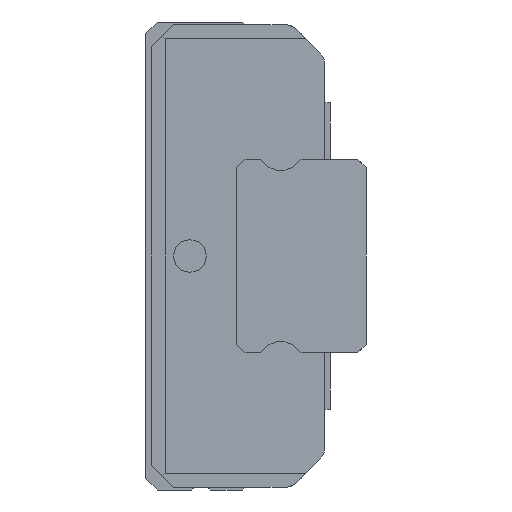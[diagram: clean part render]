
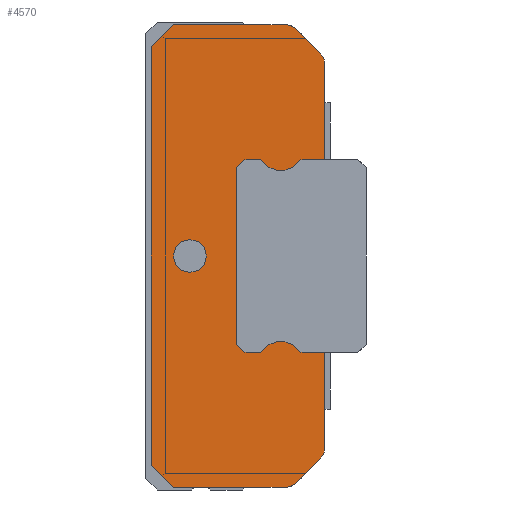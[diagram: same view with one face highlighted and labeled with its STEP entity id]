
A CAD part, left-side view. The second image highlights one B-rep face of the part: STEP entity #4570.
In plain terms, the highlighted planar face has unit normal (-1, 0, 0).
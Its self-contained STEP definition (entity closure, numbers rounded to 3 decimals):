
#263=CIRCLE('',#5099,0.5);
#269=CIRCLE('',#5126,0.5);
#279=CIRCLE('',#5145,0.6);
#280=CIRCLE('',#5146,0.5);
#281=CIRCLE('',#5147,0.5);
#282=CIRCLE('',#5148,0.15);
#283=CIRCLE('',#5149,0.8);
#284=CIRCLE('',#5150,0.15);
#285=CIRCLE('',#5151,0.15);
#286=CIRCLE('',#5152,0.8);
#287=CIRCLE('',#5153,0.15);
#1300=ORIENTED_EDGE('',*,*,#2028,.T.);
#1301=ORIENTED_EDGE('',*,*,#2029,.T.);
#1302=ORIENTED_EDGE('',*,*,#1999,.F.);
#1303=ORIENTED_EDGE('',*,*,#2030,.F.);
#1304=ORIENTED_EDGE('',*,*,#1908,.F.);
#1305=ORIENTED_EDGE('',*,*,#1904,.F.);
#1306=ORIENTED_EDGE('',*,*,#1898,.F.);
#1307=ORIENTED_EDGE('',*,*,#1925,.F.);
#1308=ORIENTED_EDGE('',*,*,#1991,.F.);
#1309=ORIENTED_EDGE('',*,*,#1980,.F.);
#1310=ORIENTED_EDGE('',*,*,#1989,.F.);
#1311=ORIENTED_EDGE('',*,*,#1986,.F.);
#1312=ORIENTED_EDGE('',*,*,#1949,.F.);
#1313=ORIENTED_EDGE('',*,*,#2031,.F.);
#1314=ORIENTED_EDGE('',*,*,#2005,.F.);
#1315=ORIENTED_EDGE('',*,*,#2032,.T.);
#1316=ORIENTED_EDGE('',*,*,#2033,.T.);
#1317=ORIENTED_EDGE('',*,*,#2034,.F.);
#1318=ORIENTED_EDGE('',*,*,#2035,.T.);
#1319=ORIENTED_EDGE('',*,*,#2036,.T.);
#1320=ORIENTED_EDGE('',*,*,#2037,.T.);
#1321=ORIENTED_EDGE('',*,*,#2038,.T.);
#1322=ORIENTED_EDGE('',*,*,#2039,.T.);
#1323=ORIENTED_EDGE('',*,*,#2040,.T.);
#1324=ORIENTED_EDGE('',*,*,#2041,.T.);
#1325=ORIENTED_EDGE('',*,*,#2042,.F.);
#1326=ORIENTED_EDGE('',*,*,#2043,.T.);
#1898=EDGE_CURVE('',#2408,#2409,#2645,.T.);
#1904=EDGE_CURVE('',#2409,#2413,#263,.T.);
#1908=EDGE_CURVE('',#2413,#2415,#2651,.T.);
#1925=EDGE_CURVE('',#2428,#2408,#2668,.T.);
#1949=EDGE_CURVE('',#2447,#2448,#2690,.T.);
#1980=EDGE_CURVE('',#2469,#2470,#2717,.T.);
#1986=EDGE_CURVE('',#2448,#2473,#269,.T.);
#1989=EDGE_CURVE('',#2473,#2469,#2724,.T.);
#1991=EDGE_CURVE('',#2470,#2428,#2726,.T.);
#1999=EDGE_CURVE('',#2477,#2478,#2734,.T.);
#2005=EDGE_CURVE('',#2482,#2484,#2740,.T.);
#2028=EDGE_CURVE('',#2503,#2503,#279,.T.);
#2029=EDGE_CURVE('',#2504,#2478,#2754,.T.);
#2030=EDGE_CURVE('',#2415,#2477,#280,.T.);
#2031=EDGE_CURVE('',#2484,#2447,#281,.T.);
#2032=EDGE_CURVE('',#2482,#2505,#2755,.T.);
#2033=EDGE_CURVE('',#2505,#2506,#282,.T.);
#2034=EDGE_CURVE('',#2507,#2506,#283,.T.);
#2035=EDGE_CURVE('',#2507,#2508,#284,.T.);
#2036=EDGE_CURVE('',#2508,#2509,#2756,.T.);
#2037=EDGE_CURVE('',#2509,#2510,#2757,.T.);
#2038=EDGE_CURVE('',#2510,#2511,#2758,.T.);
#2039=EDGE_CURVE('',#2511,#2512,#2759,.T.);
#2040=EDGE_CURVE('',#2512,#2513,#2760,.T.);
#2041=EDGE_CURVE('',#2513,#2514,#285,.T.);
#2042=EDGE_CURVE('',#2515,#2514,#286,.T.);
#2043=EDGE_CURVE('',#2515,#2504,#287,.T.);
#2408=VERTEX_POINT('',#7481);
#2409=VERTEX_POINT('',#7483);
#2413=VERTEX_POINT('',#7495);
#2415=VERTEX_POINT('',#7502);
#2428=VERTEX_POINT('',#7534);
#2447=VERTEX_POINT('',#7583);
#2448=VERTEX_POINT('',#7585);
#2469=VERTEX_POINT('',#7643);
#2470=VERTEX_POINT('',#7645);
#2473=VERTEX_POINT('',#7656);
#2477=VERTEX_POINT('',#7678);
#2478=VERTEX_POINT('',#7680);
#2482=VERTEX_POINT('',#7690);
#2484=VERTEX_POINT('',#7693);
#2503=VERTEX_POINT('',#7737);
#2504=VERTEX_POINT('',#7739);
#2505=VERTEX_POINT('',#7743);
#2506=VERTEX_POINT('',#7745);
#2507=VERTEX_POINT('',#7747);
#2508=VERTEX_POINT('',#7749);
#2509=VERTEX_POINT('',#7751);
#2510=VERTEX_POINT('',#7753);
#2511=VERTEX_POINT('',#7755);
#2512=VERTEX_POINT('',#7757);
#2513=VERTEX_POINT('',#7759);
#2514=VERTEX_POINT('',#7761);
#2515=VERTEX_POINT('',#7763);
#2645=LINE('',#7482,#2910);
#2651=LINE('',#7501,#2916);
#2668=LINE('',#7535,#2933);
#2690=LINE('',#7584,#2955);
#2717=LINE('',#7644,#2982);
#2724=LINE('',#7660,#2989);
#2726=LINE('',#7663,#2991);
#2734=LINE('',#7679,#2999);
#2740=LINE('',#7692,#3005);
#2754=LINE('',#7738,#3019);
#2755=LINE('',#7742,#3020);
#2756=LINE('',#7750,#3021);
#2757=LINE('',#7752,#3022);
#2758=LINE('',#7754,#3023);
#2759=LINE('',#7756,#3024);
#2760=LINE('',#7758,#3025);
#2910=VECTOR('',#6216,1000.);
#2916=VECTOR('',#6236,1000.);
#2933=VECTOR('',#6259,1000.);
#2955=VECTOR('',#6297,1000.);
#2982=VECTOR('',#6346,1000.);
#2989=VECTOR('',#6363,1000.);
#2991=VECTOR('',#6367,1000.);
#2999=VECTOR('',#6383,1000.);
#3005=VECTOR('',#6391,1000.);
#3019=VECTOR('',#6429,1000.);
#3020=VECTOR('',#6434,1000.);
#3021=VECTOR('',#6441,1000.);
#3022=VECTOR('',#6442,1000.);
#3023=VECTOR('',#6443,1000.);
#3024=VECTOR('',#6444,1000.);
#3025=VECTOR('',#6445,1000.);
#3571=EDGE_LOOP('',(#1300));
#3572=EDGE_LOOP('',(#1301,#1302,#1303,#1304,#1305,#1306,#1307,#1308,#1309,
#1310,#1311,#1312,#1313,#1314,#1315,#1316,#1317,#1318,#1319,#1320,#1321,
#1322,#1323,#1324,#1325,#1326));
#4130=FACE_BOUND('',#3571,.T.);
#4131=FACE_BOUND('',#3572,.T.);
#4303=PLANE('',#5144);
#4570=ADVANCED_FACE('',(#4130,#4131),#4303,.F.);
#5099=AXIS2_PLACEMENT_3D('',#7494,#6229,#6230);
#5126=AXIS2_PLACEMENT_3D('',#7655,#6357,#6358);
#5144=AXIS2_PLACEMENT_3D('',#7735,#6425,#6426);
#5145=AXIS2_PLACEMENT_3D('',#7736,#6427,#6428);
#5146=AXIS2_PLACEMENT_3D('',#7740,#6430,#6431);
#5147=AXIS2_PLACEMENT_3D('',#7741,#6432,#6433);
#5148=AXIS2_PLACEMENT_3D('',#7744,#6435,#6436);
#5149=AXIS2_PLACEMENT_3D('',#7746,#6437,#6438);
#5150=AXIS2_PLACEMENT_3D('',#7748,#6439,#6440);
#5151=AXIS2_PLACEMENT_3D('',#7760,#6446,#6447);
#5152=AXIS2_PLACEMENT_3D('',#7762,#6448,#6449);
#5153=AXIS2_PLACEMENT_3D('',#7764,#6450,#6451);
#6216=DIRECTION('',(0.,-1.,0.));
#6229=DIRECTION('',(1.,0.,0.));
#6230=DIRECTION('',(0.,0.,-1.));
#6236=DIRECTION('',(0.,-0.707,-0.707));
#6259=DIRECTION('',(0.,-0.707,0.707));
#6297=DIRECTION('',(0.,0.707,-0.707));
#6346=DIRECTION('',(0.,0.707,0.707));
#6357=DIRECTION('',(1.,0.,0.));
#6358=DIRECTION('',(0.,0.,-1.));
#6363=DIRECTION('',(0.,1.,0.));
#6367=DIRECTION('',(0.,0.,1.));
#6383=DIRECTION('',(0.,0.,-1.));
#6391=DIRECTION('',(0.,0.,-1.));
#6425=DIRECTION('',(1.,0.,0.));
#6426=DIRECTION('',(0.,0.,-1.));
#6427=DIRECTION('',(1.,0.,0.));
#6428=DIRECTION('',(0.,0.,-1.));
#6429=DIRECTION('',(0.,-1.,0.));
#6430=DIRECTION('',(1.,0.,0.));
#6431=DIRECTION('',(0.,0.,-1.));
#6432=DIRECTION('',(1.,0.,0.));
#6433=DIRECTION('',(0.,0.,-1.));
#6434=DIRECTION('',(0.,1.,0.));
#6435=DIRECTION('',(1.,0.,0.));
#6436=DIRECTION('',(0.,0.,-1.));
#6437=DIRECTION('',(1.,0.,0.));
#6438=DIRECTION('',(0.,0.,-1.));
#6439=DIRECTION('',(1.,0.,0.));
#6440=DIRECTION('',(0.,0.,-1.));
#6441=DIRECTION('',(0.,1.,0.));
#6442=DIRECTION('',(0.,0.707,0.707));
#6443=DIRECTION('',(0.,0.,1.));
#6444=DIRECTION('',(0.,-0.707,0.707));
#6445=DIRECTION('',(0.,-1.,0.));
#6446=DIRECTION('',(1.,0.,0.));
#6447=DIRECTION('',(0.,0.,-1.));
#6448=DIRECTION('',(1.,0.,0.));
#6449=DIRECTION('',(0.,0.,-1.));
#6450=DIRECTION('',(1.,0.,0.));
#6451=DIRECTION('',(0.,0.,-1.));
#7481=CARTESIAN_POINT('',(-9.5,5.7,8.4));
#7482=CARTESIAN_POINT('',(-9.5,5.7,8.4));
#7483=CARTESIAN_POINT('',(-9.5,1.607,8.4));
#7494=CARTESIAN_POINT('',(-9.5,1.607,7.9));
#7495=CARTESIAN_POINT('',(-9.5,1.254,8.254));
#7501=CARTESIAN_POINT('',(-9.5,1.254,8.254));
#7502=CARTESIAN_POINT('',(-9.5,0.346,7.346));
#7534=CARTESIAN_POINT('',(-9.5,6.5,7.6));
#7535=CARTESIAN_POINT('',(-9.5,6.5,7.6));
#7583=CARTESIAN_POINT('',(-9.5,0.346,-7.346));
#7584=CARTESIAN_POINT('',(-9.5,0.346,-7.346));
#7585=CARTESIAN_POINT('',(-9.5,1.254,-8.254));
#7643=CARTESIAN_POINT('',(-9.5,5.7,-8.4));
#7644=CARTESIAN_POINT('',(-9.5,5.7,-8.4));
#7645=CARTESIAN_POINT('',(-9.5,6.5,-7.6));
#7655=CARTESIAN_POINT('',(-9.5,1.607,-7.9));
#7656=CARTESIAN_POINT('',(-9.5,1.607,-8.4));
#7660=CARTESIAN_POINT('',(-9.5,1.607,-8.4));
#7663=CARTESIAN_POINT('',(-9.5,6.5,-7.6));
#7678=CARTESIAN_POINT('',(-9.5,0.2,6.993));
#7679=CARTESIAN_POINT('',(-9.5,0.2,6.993));
#7680=CARTESIAN_POINT('',(-9.5,0.2,3.5));
#7690=CARTESIAN_POINT('',(-9.5,0.2,-3.5));
#7692=CARTESIAN_POINT('',(-9.5,0.2,6.993));
#7693=CARTESIAN_POINT('',(-9.5,0.2,-6.993));
#7735=CARTESIAN_POINT('',(-9.5,1.607,7.9));
#7736=CARTESIAN_POINT('',(-9.5,5.1,0.));
#7737=CARTESIAN_POINT('',(-9.5,5.1,-0.6));
#7738=CARTESIAN_POINT('',(-9.5,1.025,3.5));
#7739=CARTESIAN_POINT('',(-9.5,1.025,3.5));
#7740=CARTESIAN_POINT('',(-9.5,0.7,6.993));
#7741=CARTESIAN_POINT('',(-9.5,0.7,-6.993));
#7742=CARTESIAN_POINT('',(-9.5,-1.,-3.5));
#7743=CARTESIAN_POINT('',(-9.5,1.025,-3.5));
#7744=CARTESIAN_POINT('',(-9.5,1.025,-3.35));
#7745=CARTESIAN_POINT('',(-9.5,1.148,-3.437));
#7746=CARTESIAN_POINT('',(-9.5,1.8,-3.9));
#7747=CARTESIAN_POINT('',(-9.5,2.452,-3.437));
#7748=CARTESIAN_POINT('',(-9.5,2.575,-3.35));
#7749=CARTESIAN_POINT('',(-9.5,2.575,-3.5));
#7750=CARTESIAN_POINT('',(-9.5,2.575,-3.5));
#7751=CARTESIAN_POINT('',(-9.5,3.1,-3.5));
#7752=CARTESIAN_POINT('',(-9.5,3.1,-3.5));
#7753=CARTESIAN_POINT('',(-9.5,3.4,-3.2));
#7754=CARTESIAN_POINT('',(-9.5,3.4,-3.2));
#7755=CARTESIAN_POINT('',(-9.5,3.4,3.2));
#7756=CARTESIAN_POINT('',(-9.5,3.4,3.2));
#7757=CARTESIAN_POINT('',(-9.5,3.1,3.5));
#7758=CARTESIAN_POINT('',(-9.5,3.1,3.5));
#7759=CARTESIAN_POINT('',(-9.5,2.575,3.5));
#7760=CARTESIAN_POINT('',(-9.5,2.575,3.35));
#7761=CARTESIAN_POINT('',(-9.5,2.452,3.437));
#7762=CARTESIAN_POINT('',(-9.5,1.8,3.9));
#7763=CARTESIAN_POINT('',(-9.5,1.148,3.437));
#7764=CARTESIAN_POINT('',(-9.5,1.025,3.35));
